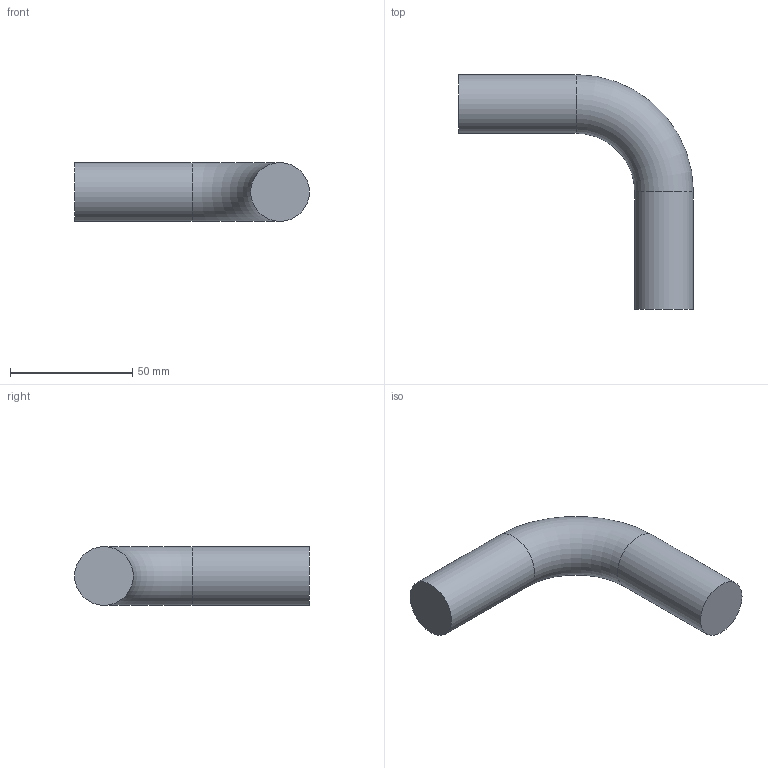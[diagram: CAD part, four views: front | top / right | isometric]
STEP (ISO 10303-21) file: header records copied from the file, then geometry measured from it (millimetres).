
FILE_DESCRIPTION(('FreeCAD Model'),'2;1');
FILE_NAME('Open CASCADE Shape Model','2026-11-03T10:07:26',('FreeCAD'),( 'FreeCAD'),'Open CASCADE STEP processor 7.8','FreeCAD','Unknown');
FILE_SCHEMA(('AUTOMOTIVE_DESIGN { 1 0 10303 214 1 1 1 1 }'));
Length unit declared in the file: millimetre
Products named in the file (1): Open CASCADE STEP translator 7.8 5
Bounding box: 96 x 96 x 24 mm (x, y, z)
Volume: 69011.4 mm3; surface area: 12406.7 mm2
Topology: 1 solids, 1 shells, 5 faces, 9 edges, 6 vertices
Faces by surface type: cylinder 2, plane 2, torus 1
Full cylindrical faces by diameter (mm): 24 x2
Entity records: 140 total; most frequent: DIRECTION 28, CARTESIAN_POINT 21, ORIENTED_EDGE 18, AXIS2_PLACEMENT_3D 13, EDGE_CURVE 9, CIRCLE 7, VERTEX_POINT 6, ADVANCED_FACE 5
